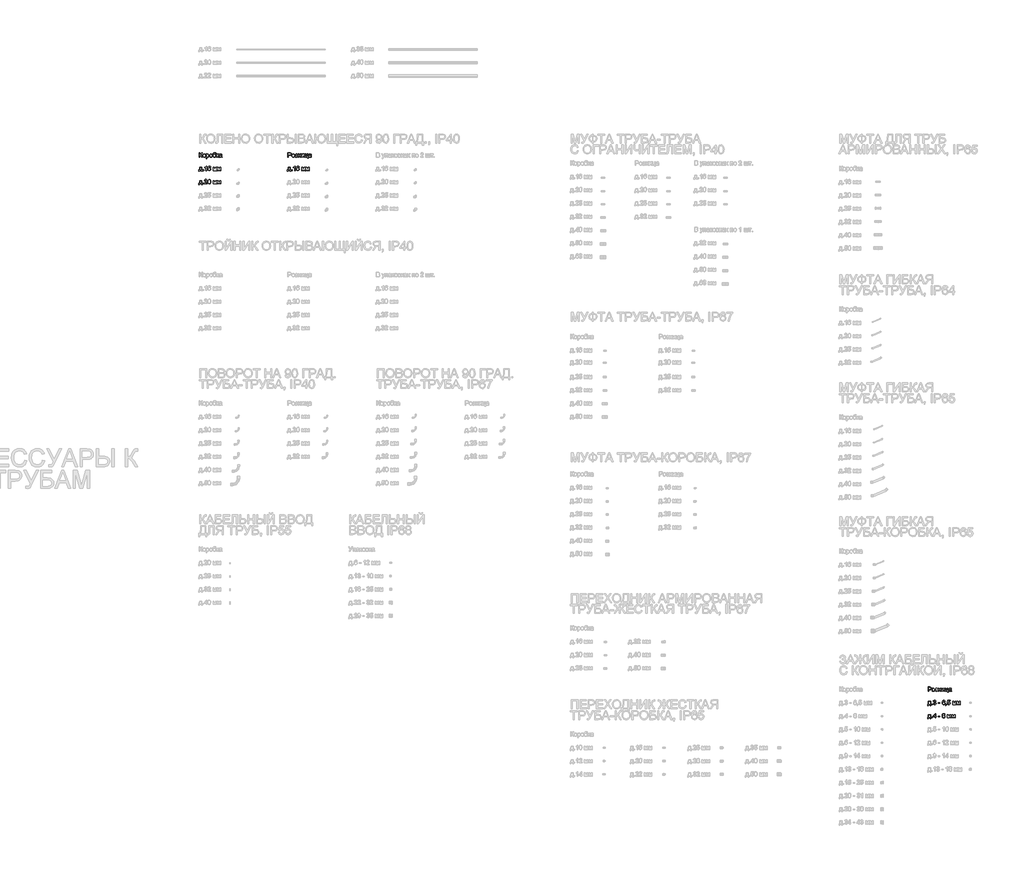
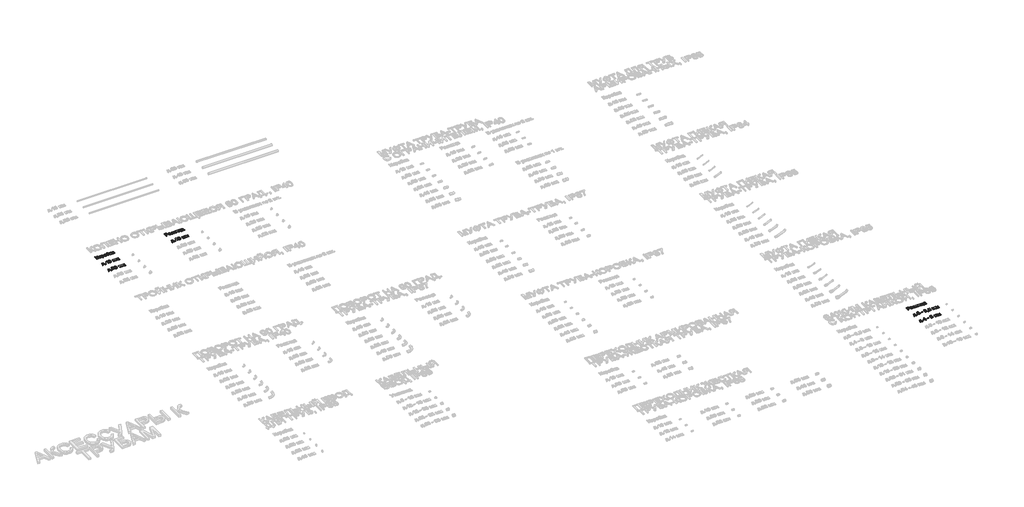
# One storey, part 80 of 98: 8 proxies.
"""IFC4 building model written with IfcOpenShell, lengths in millimetres."""

from ifc_helpers import new_model, si_unit, origin, origin_with_axes, place, context, project, spatial, polyline, outline, extrude, element, save

model = new_model("IFC4")

# Units and contexts
model_context = context("Model", 3, world=origin())
ifc_project = project(units=[si_unit("LENGTHUNIT", "METRE", prefix="MILLI")], contexts=[model_context])

# Site, building, storey
site = spatial("IfcSite", under=ifc_project)
building = spatial("IfcBuilding", under=site)
storey = spatial("IfcBuildingStorey", under=building, Name="Этаж 01", Elevation=0.0)

# Proxies
placement = place(None, origin())
element("IfcBuildingElementProxy", 1, Name="100", ObjectType="100", at=placement, inside=storey, context=model_context, shape_type="SweptSolid", body=[
    extrude(outline(polyline([(-26.9858135, -15385.7395637), (20.1030819, -15385.7395637), (20.1030819, -15446.9551277), (29.520861, -15446.9551277), (29.520861, -15479.9173545), (16.9638222, -15479.9173545), (16.9638222, -15459.5121665), (-34.8339627, -15459.5121665), (-34.8339627, -15479.9173545), (-47.3910015, -15479.9173545), (-47.3910015, -15446.9551277), (-39.5428522, -15446.9551277), (-29.8430303, -15423.0060098), (-26.9858135, -15385.7395637)]), holes=[polyline([(-15.9984045, -15398.2966025), (-18.9414605, -15426.905559), (-25.4161836, -15446.9551277), (7.5460431, -15446.9551277), (7.5460431, -15398.2966025), (-15.9984045, -15398.2966025)])]), origin_with_axes(), (0.0, 0.0, 1.0), 10.0),
    extrude(outline(polyline([(46.7867893, -15459.5121665), (46.7867893, -15446.9551277), (59.3438281, -15446.9551277), (59.3438281, -15459.5121665), (46.7867893, -15459.5121665)])), origin_with_axes(), (0.0, 0.0, 1.0), 10.0),
    extrude(outline(polyline([(126.8379114, -15459.5121665), (114.2808727, -15459.5121665), (114.2808727, -15381.2268779), (102.3860215, -15389.7004265), (89.1667951, -15396.0402596), (89.1667951, -15384.1699338), (107.5731576, -15372.4222355), (118.7445076, -15359.0558563), (126.8379114, -15359.0558563), (126.8379114, -15459.5121665)])), origin_with_axes(), (0.0, 0.0, 1.0), 10.0),
    extrude(outline(polyline([(221.0157022, -15385.7395637), (208.4586634, -15387.3091935), (203.700723, -15376.8368194), (191.1191587, -15371.6128951), (179.7883933, -15374.6540529), (171.2167428, -15386.0706575), (167.6482874, -15408.4501455), (178.7215355, -15398.4314925), (192.4435339, -15395.1573428), (204.0440795, -15397.3952916), (213.7806896, -15404.109138), (220.3841715, -15414.3669143), (222.5853321, -15427.2366527), (218.4405282, -15444.5638947), (207.0361864, -15456.8266279), (190.5795985, -15461.0817963), (176.3333682, -15458.2613677), (164.9872743, -15449.8000818), (157.5652551, -15434.8640728), (155.0912487, -15412.6194748), (157.8381009, -15387.6096305), (166.0786576, -15370.5092491), (177.3297153, -15361.9192045), (191.9039737, -15359.0558563), (202.9220394, -15360.8278213), (211.7450759, -15366.1437161), (217.9254935, -15374.5866079), (221.0157022, -15385.7395637)]), holes=[polyline([(167.6482874, -15427.040449), (170.5545552, -15437.9174933), (178.2800771, -15445.8146935), (189.5985798, -15448.5247575), (197.8851218, -15447.1206746), (204.3996988, -15442.9084257), (208.6211447, -15436.2865498), (210.0282933, -15427.6535857), (208.6395388, -15419.3670437), (204.4732752, -15413.0486705), (197.8483336, -15409.0479538), (189.083545, -15407.7143815), (173.8900186, -15413.0486705), (169.2087202, -15419.2137596), (167.6482874, -15427.040449)])]), origin_with_axes(), (0.0, 0.0, 1.0), 10.0),
    extrude(outline(polyline([(275.9527468, -15385.7395637), (297.5596827, -15385.7395637), (314.2124743, -15444.7968867), (332.1651157, -15385.7395637), (352.8646093, -15385.7395637), (352.8646093, -15459.5121665), (340.3075705, -15459.5121665), (340.3075705, -15400.111487), (322.2568273, -15459.5121665), (305.7757139, -15459.5121665), (288.5097856, -15397.2665329), (288.5097856, -15459.5121665), (275.9527468, -15459.5121665), (275.9527468, -15385.7395637)])), origin_with_axes(), (0.0, 0.0, 1.0), 10.0),
    extrude(outline(polyline([(371.7001674, -15385.7395637), (393.3071033, -15385.7395637), (409.9598949, -15444.7968867), (427.9125363, -15385.7395637), (448.6120299, -15385.7395637), (448.6120299, -15459.5121665), (436.0549911, -15459.5121665), (436.0549911, -15400.111487), (418.0042479, -15459.5121665), (401.5231345, -15459.5121665), (384.2572062, -15397.2665329), (384.2572062, -15459.5121665), (371.7001674, -15459.5121665), (371.7001674, -15385.7395637)])), origin_with_axes(), (0.0, 0.0, 1.0), 10.0),
])
element("IfcBuildingElementProxy", 2, Name="100", ObjectType="100", at=placement, inside=storey, context=model_context, shape_type="SweptSolid", body=[
    extrude(outline(polyline([(-36.4035925, -15059.0558563), (-23.8465538, -15059.0558563), (-23.8465538, -15103.005492), (-9.8057243, -15099.6822913), (-0.0078005, -15082.8700841), (6.9206438, -15068.8292546), (14.768793, -15061.8762849), (25.9891938, -15059.0558563), (34.2297505, -15059.2030091), (34.2297505, -15071.7600479), (31.4583728, -15071.6864715), (28.6869951, -15071.6128951), (18.8768086, -15074.6295274), (11.4210668, -15087.5544482), (2.5305853, -15103.2997976), (-6.1391671, -15108.4991965), (3.5545235, -15114.1768419), (13.113324, -15126.0103794), (34.2297505, -15159.5121665), (19.6616235, -15159.5121665), (1.807084, -15131.2097783), (-10.7622175, -15116.4331848), (-23.8465538, -15112.4232711), (-23.8465538, -15159.5121665), (-36.4035925, -15159.5121665), (-36.4035925, -15059.0558563)])), origin_with_axes(), (0.0, 0.0, 1.0), 10.0),
    extrude(outline(polyline([(40.5082699, -15122.6258651), (43.2244653, -15104.8387706), (51.3730515, -15092.3369141), (61.4407554, -15086.2116789), (73.4950221, -15084.1699338), (86.6866574, -15086.656203), (97.2234108, -15094.1150104), (104.1303953, -15105.957745), (106.4327234, -15121.5957955), (102.361496, -15143.9384953), (90.5034331, -15156.5813732), (73.4950221, -15161.0817963), (60.1439714, -15158.6047242), (49.6194807, -15151.1735079), (42.7860726, -15139.082453), (40.5082699, -15122.6258651)]), holes=[polyline([(53.0653087, -15122.6013396), (54.5184426, -15133.9658276), (58.8778442, -15142.0622972), (65.4384065, -15146.9091424), (73.4950221, -15148.5247575), (81.5148496, -15146.8999454), (88.0631492, -15142.025509), (92.4225508, -15133.8217405), (93.8756847, -15122.2089321), (92.4133537, -15111.175538), (88.026361, -15103.189433), (81.4688644, -15098.3425877), (73.4950221, -15096.7269726), (65.4384065, -15098.3364563), (58.8778442, -15103.1649075), (54.5184426, -15111.242983), (53.0653087, -15122.6013396)])]), origin_with_axes(), (0.0, 0.0, 1.0), 10.0),
    extrude(outline(polyline([(120.5593921, -15187.7655037), (120.5593921, -15085.7395637), (133.1164308, -15085.7395637), (133.1164308, -15098.0513478), (141.7984459, -15087.6402873), (153.5216188, -15084.1699338), (169.4386465, -15089.0259762), (179.8374442, -15102.7111864), (183.3445859, -15122.0617793), (179.3837231, -15142.4056537), (167.8812794, -15156.2625422), (152.0010399, -15161.0817963), (141.0749447, -15157.8566975), (133.1164308, -15149.7019799), (133.1164308, -15187.7655037), (120.5593921, -15187.7655037)]), holes=[polyline([(133.1164308, -15123.2144763), (134.4745285, -15134.4716653), (138.5488216, -15142.34434), (144.5606266, -15146.9796532), (151.7312598, -15148.5247575), (159.018389, -15146.9244709), (165.1834781, -15142.1236108), (169.3865299, -15133.9627619), (170.7875471, -15122.2825085), (169.4202524, -15111.0866332), (165.3183681, -15103.1035939), (159.3157603, -15098.3211279), (152.2462946, -15096.7269726), (145.1492378, -15098.4222955), (138.9167036, -15103.5082641), (134.566499, -15111.8254628), (133.1164308, -15123.2144763)])]), origin_with_axes(), (0.0, 0.0, 1.0), 10.0),
    extrude(outline(polyline([(194.3319948, -15122.6258651), (197.0481902, -15104.8387706), (205.1967764, -15092.3369141), (215.2644804, -15086.2116789), (227.3187471, -15084.1699338), (240.5103823, -15086.656203), (251.0471358, -15094.1150104), (257.9541202, -15105.957745), (260.2564484, -15121.5957955), (256.185221, -15143.9384953), (244.327158, -15156.5813732), (227.3187471, -15161.0817963), (213.9676963, -15158.6047242), (203.4432056, -15151.1735079), (196.6097975, -15139.082453), (194.3319948, -15122.6258651)]), holes=[polyline([(206.8890336, -15122.6013396), (208.3421675, -15133.9658276), (212.7015691, -15142.0622972), (219.2621314, -15146.9091424), (227.3187471, -15148.5247575), (235.3385746, -15146.8999454), (241.8868741, -15142.025509), (246.2462757, -15133.8217405), (247.6994096, -15122.2089321), (246.2370787, -15111.175538), (241.8500859, -15103.189433), (235.2925893, -15098.3425877), (227.3187471, -15096.7269726), (219.2621314, -15098.3364563), (212.7015691, -15103.1649075), (208.3421675, -15111.242983), (206.8890336, -15122.6013396)])]), origin_with_axes(), (0.0, 0.0, 1.0), 10.0),
    extrude(outline(polyline([(326.1809019, -15057.4862265), (337.1683108, -15057.4862265), (333.9309493, -15067.2841503), (327.5298025, -15070.8280802), (312.1523351, -15071.6128951), (291.4405788, -15074.5069001), (283.4943277, -15083.7775264), (280.8087892, -15100.1850634), (291.6858335, -15088.1675849), (305.7021375, -15084.1699338), (318.7680797, -15086.7113853), (329.3692125, -15094.3357396), (336.3957586, -15106.2949702), (338.7379407, -15121.8410502), (334.0903648, -15143.447986), (323.0661677, -15156.4832714), (305.7021375, -15161.0817963), (294.3683064, -15159.6010713), (285.873298, -15155.1588962), (275.0207791, -15140.002158), (271.2438573, -15107.8370089), (273.6258932, -15083.7438039), (280.772001, -15069.0499838), (292.8599902, -15061.5543882), (310.0676705, -15059.0558563), (324.0471863, -15058.7738134), (326.1809019, -15057.4862265)]), holes=[polyline([(326.1809019, -15121.4486427), (324.8197385, -15111.5679454), (320.7362484, -15103.6554169), (314.1756861, -15098.4590837), (305.3833064, -15096.7269726), (296.2169134, -15098.5571855), (289.4172278, -15104.0478243), (285.204979, -15112.598015), (283.8008961, -15123.6068837), (285.3521318, -15134.2785273), (290.005839, -15142.1113481), (296.9342833, -15146.9214052), (305.30973, -15148.5247575), (313.7280964, -15146.6700191), (320.3928918, -15141.105804), (324.7338994, -15132.4820369), (326.1809019, -15121.4486427)])]), origin_with_axes(), (0.0, 0.0, 1.0), 10.0),
    extrude(outline(polyline([(354.4342391, -15085.7395637), (366.9912779, -15085.7395637), (366.9912779, -15117.1321606), (375.4035129, -15114.8758177), (382.2951689, -15101.7301677), (388.0218653, -15090.3871396), (393.0741114, -15086.6960569), (402.2588985, -15085.7395637), (404.6623942, -15085.7395637), (404.6623942, -15098.3701789), (401.2778798, -15098.2966025), (395.1465133, -15099.6209776), (390.8300312, -15107.8860598), (385.7655224, -15116.8255923), (378.6653999, -15121.203388), (386.5871255, -15126.0900872), (394.3616983, -15136.3846517), (407.8016539, -15159.5121665), (393.5278325, -15159.5121665), (380.3576571, -15136.875161), (373.7357811, -15127.2979664), (366.9912779, -15124.9803098), (366.9912779, -15159.5121665), (354.4342391, -15159.5121665), (354.4342391, -15085.7395637)])), origin_with_axes(), (0.0, 0.0, 1.0), 10.0),
    extrude(outline(polyline([(462.7386985, -15150.0943874), (450.5618045, -15158.6047242), (437.1095862, -15161.0817963), (426.6157523, -15159.5918742), (418.874902, -15155.122108), (414.1016331, -15148.3346852), (412.5105434, -15139.8917934), (414.9140391, -15129.9589795), (421.2293467, -15122.7484924), (430.0217264, -15118.6282141), (440.886508, -15116.7397532), (462.6651221, -15112.4232711), (462.7386985, -15109.6273679), (459.2806078, -15100.3567416), (445.3991938, -15096.7269726), (432.6950022, -15099.142731), (426.637212, -15107.7143815), (414.0801733, -15106.1447517), (419.5125641, -15093.8820185), (430.4509221, -15086.6960569), (447.0178746, -15084.1699338), (462.2359264, -15086.4017513), (470.8321024, -15092.0058203), (474.6826006, -15100.5284199), (475.2957373, -15111.5158288), (475.2957373, -15127.1385509), (475.9333994, -15148.9539532), (478.434997, -15159.5121665), (465.8779582, -15159.5121665), (462.7386985, -15150.0943874)]), holes=[polyline([(462.7386985, -15124.9803098), (442.4806633, -15128.8308081), (431.6771954, -15130.8664218), (426.7843648, -15134.1773597), (425.0675822, -15139.0088766), (428.8077158, -15145.8024308), (439.782862, -15148.5247575), (452.4870536, -15145.5203879), (460.6785593, -15138.2485871), (462.6651221, -15128.5365025), (462.7386985, -15124.9803098)])]), origin_with_axes(), (0.0, 0.0, 1.0), 10.0),
])
element("IfcBuildingElementProxy", 3, Name="100", ObjectType="100", at=placement, inside=storey, context=model_context, shape_type="SweptSolid", body=[
    extrude(outline(polyline([(-26.9858135, -15685.7395637), (20.1030819, -15685.7395637), (20.1030819, -15746.9551277), (29.520861, -15746.9551277), (29.520861, -15779.9173545), (16.9638222, -15779.9173545), (16.9638222, -15759.5121665), (-34.8339627, -15759.5121665), (-34.8339627, -15779.9173545), (-47.3910015, -15779.9173545), (-47.3910015, -15746.9551277), (-39.5428522, -15746.9551277), (-29.8430303, -15723.0060098), (-26.9858135, -15685.7395637)]), holes=[polyline([(-15.9984045, -15698.2966025), (-18.9414605, -15726.905559), (-25.4161836, -15746.9551277), (7.5460431, -15746.9551277), (7.5460431, -15698.2966025), (-15.9984045, -15698.2966025)])]), origin_with_axes(), (0.0, 0.0, 1.0), 10.0),
    extrude(outline(polyline([(46.7867893, -15759.5121665), (46.7867893, -15746.9551277), (59.3438281, -15746.9551277), (59.3438281, -15759.5121665), (46.7867893, -15759.5121665)])), origin_with_axes(), (0.0, 0.0, 1.0), 10.0),
    extrude(outline(polyline([(144.1038398, -15746.9551277), (144.1038398, -15759.5121665), (78.1793862, -15759.5121665), (79.5282869, -15750.8546768), (87.1557069, -15737.5250859), (102.8765308, -15722.9692216), (124.5570431, -15702.0489988), (129.9771711, -15687.8242283), (124.8636114, -15676.3095219), (111.509495, -15671.6128951), (97.5912928, -15676.1991573), (92.3060548, -15688.8788234), (79.7490161, -15687.3091935), (82.7932396, -15675.1629563), (89.3752616, -15666.2908689), (99.1517256, -15660.8646095), (111.7792751, -15659.0558563), (124.4987951, -15661.0669445), (134.256865, -15667.1002093), (140.4648737, -15676.1133182), (142.5342099, -15687.0639389), (140.3023925, -15698.9710528), (132.8834389, -15711.2828369), (114.8940093, -15728.4874515), (100.4485097, -15740.5662437), (94.7831269, -15746.9551277), (144.1038398, -15746.9551277)])), origin_with_axes(), (0.0, 0.0, 1.0), 10.0),
    extrude(outline(polyline([(156.6608785, -15710.0933518), (160.3519612, -15681.1900897), (171.3148447, -15664.5250353), (189.6231053, -15659.0558563), (204.2893342, -15662.2932179), (214.4183518, -15671.6251578), (220.3044637, -15686.4875904), (222.5853321, -15710.0933518), (218.9310376, -15738.8739865), (208.0049423, -15755.5758291), (199.7735827, -15759.7053045), (189.6231053, -15761.0817963), (176.5755572, -15758.6905633), (166.6672688, -15751.5168644), (159.1624761, -15734.5268476), (156.6608785, -15710.0933518)]), holes=[polyline([(169.2179173, -15710.0688263), (170.6894453, -15729.8210238), (175.1040292, -15741.2529568), (181.6768542, -15746.7068073), (189.6231053, -15748.5247575), (197.5693564, -15746.700676), (204.1421814, -15741.2284313), (208.5567653, -15729.7903669), (210.0282933, -15710.0688263), (208.6058162, -15690.7611529), (204.3383851, -15679.2403151), (197.7778228, -15673.5197501), (189.4759525, -15671.6128951), (181.6155405, -15673.2928895), (175.3002329, -15678.3328729), (170.7384962, -15690.5710806), (169.2179173, -15710.0688263)])]), origin_with_axes(), (0.0, 0.0, 1.0), 10.0),
    extrude(outline(polyline([(275.9527468, -15685.7395637), (297.5596827, -15685.7395637), (314.2124743, -15744.7968867), (332.1651157, -15685.7395637), (352.8646093, -15685.7395637), (352.8646093, -15759.5121665), (340.3075705, -15759.5121665), (340.3075705, -15700.111487), (322.2568273, -15759.5121665), (305.7757139, -15759.5121665), (288.5097856, -15697.2665329), (288.5097856, -15759.5121665), (275.9527468, -15759.5121665), (275.9527468, -15685.7395637)])), origin_with_axes(), (0.0, 0.0, 1.0), 10.0),
    extrude(outline(polyline([(371.7001674, -15685.7395637), (393.3071033, -15685.7395637), (409.9598949, -15744.7968867), (427.9125363, -15685.7395637), (448.6120299, -15685.7395637), (448.6120299, -15759.5121665), (436.0549911, -15759.5121665), (436.0549911, -15700.111487), (418.0042479, -15759.5121665), (401.5231345, -15759.5121665), (384.2572062, -15697.2665329), (384.2572062, -15759.5121665), (371.7001674, -15759.5121665), (371.7001674, -15685.7395637)])), origin_with_axes(), (0.0, 0.0, 1.0), 10.0),
])
element("IfcBuildingElementProxy", 4, Name="100", ObjectType="100", at=placement, inside=storey, context=model_context, shape_type="SweptSolid", body=[
    extrude(outline(polyline([(1973.0141865, -15385.7395637), (2020.1030819, -15385.7395637), (2020.1030819, -15446.9551277), (2029.520861, -15446.9551277), (2029.520861, -15479.9173545), (2016.9638222, -15479.9173545), (2016.9638222, -15459.5121665), (1965.1660373, -15459.5121665), (1965.1660373, -15479.9173545), (1952.6089985, -15479.9173545), (1952.6089985, -15446.9551277), (1960.4571478, -15446.9551277), (1970.1569697, -15423.0060098), (1973.0141865, -15385.7395637)]), holes=[polyline([(1984.0015955, -15398.2966025), (1981.0585395, -15426.905559), (1974.5838164, -15446.9551277), (2007.5460431, -15446.9551277), (2007.5460431, -15398.2966025), (1984.0015955, -15398.2966025)])]), origin_with_axes(), (0.0, 0.0, 1.0), 10.0),
    extrude(outline(polyline([(2046.7867893, -15459.5121665), (2046.7867893, -15446.9551277), (2059.3438281, -15446.9551277), (2059.3438281, -15459.5121665), (2046.7867893, -15459.5121665)])), origin_with_axes(), (0.0, 0.0, 1.0), 10.0),
    extrude(outline(polyline([(2126.8379114, -15459.5121665), (2114.2808727, -15459.5121665), (2114.2808727, -15381.2268779), (2102.3860215, -15389.7004265), (2089.1667951, -15396.0402596), (2089.1667951, -15384.1699338), (2107.5731576, -15372.4222355), (2118.7445076, -15359.0558563), (2126.8379114, -15359.0558563), (2126.8379114, -15459.5121665)])), origin_with_axes(), (0.0, 0.0, 1.0), 10.0),
    extrude(outline(polyline([(2221.0157022, -15385.7395637), (2208.4586634, -15387.3091935), (2203.700723, -15376.8368194), (2191.1191587, -15371.6128951), (2179.7883933, -15374.6540529), (2171.2167428, -15386.0706575), (2167.6482874, -15408.4501455), (2178.7215355, -15398.4314925), (2192.4435339, -15395.1573428), (2204.0440795, -15397.3952916), (2213.7806896, -15404.109138), (2220.3841715, -15414.3669143), (2222.5853321, -15427.2366527), (2218.4405282, -15444.5638947), (2207.0361864, -15456.8266279), (2190.5795985, -15461.0817963), (2176.3333682, -15458.2613677), (2164.9872743, -15449.8000818), (2157.5652551, -15434.8640728), (2155.0912487, -15412.6194748), (2157.8381009, -15387.6096305), (2166.0786576, -15370.5092491), (2177.3297153, -15361.9192045), (2191.9039737, -15359.0558563), (2202.9220394, -15360.8278213), (2211.7450759, -15366.1437161), (2217.9254935, -15374.5866079), (2221.0157022, -15385.7395637)]), holes=[polyline([(2167.6482874, -15427.040449), (2170.5545552, -15437.9174933), (2178.2800771, -15445.8146935), (2189.5985798, -15448.5247575), (2197.8851218, -15447.1206746), (2204.3996988, -15442.9084257), (2208.6211447, -15436.2865498), (2210.0282933, -15427.6535857), (2208.6395388, -15419.3670437), (2204.4732752, -15413.0486705), (2197.8483336, -15409.0479538), (2189.083545, -15407.7143815), (2173.8900186, -15413.0486705), (2169.2087202, -15419.2137596), (2167.6482874, -15427.040449)])]), origin_with_axes(), (0.0, 0.0, 1.0), 10.0),
    extrude(outline(polyline([(2275.9527468, -15385.7395637), (2297.5596827, -15385.7395637), (2314.2124743, -15444.7968867), (2332.1651157, -15385.7395637), (2352.8646093, -15385.7395637), (2352.8646093, -15459.5121665), (2340.3075705, -15459.5121665), (2340.3075705, -15400.111487), (2322.2568273, -15459.5121665), (2305.7757139, -15459.5121665), (2288.5097856, -15397.2665329), (2288.5097856, -15459.5121665), (2275.9527468, -15459.5121665), (2275.9527468, -15385.7395637)])), origin_with_axes(), (0.0, 0.0, 1.0), 10.0),
    extrude(outline(polyline([(2371.7001674, -15385.7395637), (2393.3071033, -15385.7395637), (2409.9598949, -15444.7968867), (2427.9125363, -15385.7395637), (2448.6120299, -15385.7395637), (2448.6120299, -15459.5121665), (2436.0549911, -15459.5121665), (2436.0549911, -15400.111487), (2418.0042479, -15459.5121665), (2401.5231345, -15459.5121665), (2384.2572062, -15397.2665329), (2384.2572062, -15459.5121665), (2371.7001674, -15459.5121665), (2371.7001674, -15385.7395637)])), origin_with_axes(), (0.0, 0.0, 1.0), 10.0),
])
element("IfcBuildingElementProxy", 5, Name="100", ObjectType="100", at=placement, inside=storey, context=model_context, shape_type="SweptSolid", body=[
    extrude(outline(polyline([(1963.5964075, -15159.5121665), (1963.5964075, -15059.0558563), (2000.8260654, -15059.0558563), (2015.8356508, -15060.0123495), (2028.0370703, -15064.7089763), (2035.9465332, -15074.421061), (2038.9386401, -15088.1185339), (2036.9183548, -15099.9582028), (2030.8574989, -15109.8235716), (2019.5236678, -15116.4822358), (2001.6844567, -15118.7017905), (1976.1534462, -15118.7017905), (1976.1534462, -15159.5121665), (1963.5964075, -15159.5121665)]), holes=[polyline([(1976.1534462, -15106.1447517), (2002.4202207, -15106.1447517), (2020.9124223, -15101.533964), (2025.0143065, -15095.9850773), (2026.3816013, -15088.5599923), (2023.1565025, -15078.1611946), (2014.6829539, -15072.4712864), (2002.1259151, -15071.6128951), (1976.1534462, -15071.6128951), (1976.1534462, -15106.1447517)])]), origin_with_axes(), (0.0, 0.0, 1.0), 10.0),
    extrude(outline(polyline([(2051.4956788, -15122.6258651), (2054.2118742, -15104.8387706), (2062.3604604, -15092.3369141), (2072.4281644, -15086.2116789), (2084.4824311, -15084.1699338), (2097.6740663, -15086.656203), (2108.2108198, -15094.1150104), (2115.1178042, -15105.957745), (2117.4201324, -15121.5957955), (2113.348905, -15143.9384953), (2101.490842, -15156.5813732), (2084.4824311, -15161.0817963), (2071.1313803, -15158.6047242), (2060.6068896, -15151.1735079), (2053.7734815, -15139.082453), (2051.4956788, -15122.6258651)]), holes=[polyline([(2064.0527176, -15122.6013396), (2065.5058515, -15133.9658276), (2069.8652531, -15142.0622972), (2076.4258154, -15146.9091424), (2084.4824311, -15148.5247575), (2092.5022586, -15146.8999454), (2099.0505581, -15142.025509), (2103.4099597, -15133.8217405), (2104.8630936, -15122.2089321), (2103.4007627, -15111.175538), (2099.0137699, -15103.189433), (2092.4562733, -15098.3425877), (2084.4824311, -15096.7269726), (2076.4258154, -15098.3364563), (2069.8652531, -15103.1649075), (2065.5058515, -15111.242983), (2064.0527176, -15122.6013396)])]), origin_with_axes(), (0.0, 0.0, 1.0), 10.0),
    extrude(outline(polyline([(2148.8127293, -15126.5499397), (2148.8127293, -15113.9929009), (2158.7210177, -15113.5023916), (2163.7242128, -15110.8904294), (2166.0786576, -15105.4335132), (2162.9271352, -15099.0936801), (2154.7969431, -15096.7269726), (2146.3969709, -15099.0814174), (2140.9645801, -15106.1447517), (2126.8379114, -15104.5751218), (2136.280216, -15089.2712308), (2153.5216188, -15084.1699338), (2164.0185184, -15085.7242353), (2171.9647695, -15090.3871396), (2176.9679647, -15097.2082849), (2178.6356964, -15105.2373094), (2176.2628575, -15113.0364077), (2169.1443409, -15119.0696725), (2177.4462112, -15126.8932962), (2180.2053262, -15138.1504853), (2178.4548211, -15147.3935204), (2173.2033056, -15154.7174378), (2164.806399, -15159.4907067), (2153.6197207, -15161.0817963), (2142.678297, -15159.6102683), (2134.3059159, -15155.1956844), (2128.5025775, -15147.8380445), (2125.2682816, -15137.5373486), (2139.3949502, -15135.9677188), (2145.0603329, -15145.238345), (2154.8214685, -15148.5247575), (2163.993993, -15145.3732351), (2167.6482874, -15137.3166194), (2165.3796818, -15130.719269), (2160.5481649, -15127.1876018), (2151.2652759, -15126.4763633), (2148.8127293, -15126.5499397)])), origin_with_axes(), (0.0, 0.0, 1.0), 10.0),
    extrude(outline(polyline([(2195.9016247, -15085.7395637), (2208.4586634, -15085.7395637), (2208.4586634, -15113.9929009), (2241.4208902, -15113.9929009), (2241.4208902, -15085.7395637), (2253.977929, -15085.7395637), (2253.977929, -15159.5121665), (2241.4208902, -15159.5121665), (2241.4208902, -15126.5499397), (2208.4586634, -15126.5499397), (2208.4586634, -15159.5121665), (2195.9016247, -15159.5121665), (2195.9016247, -15085.7395637)])), origin_with_axes(), (0.0, 0.0, 1.0), 10.0),
    extrude(outline(polyline([(2272.8134871, -15085.7395637), (2285.3705259, -15085.7395637), (2285.3705259, -15142.0009835), (2316.2235626, -15085.7395637), (2332.4594213, -15085.7395637), (2332.4594213, -15159.5121665), (2319.9023825, -15159.5121665), (2319.9023825, -15103.5941032), (2289.2455496, -15159.5121665), (2272.8134871, -15159.5121665), (2272.8134871, -15085.7395637)])), origin_with_axes(), (0.0, 0.0, 1.0), 10.0),
    extrude(outline(polyline([(2351.2949794, -15085.7395637), (2363.8520182, -15085.7395637), (2363.8520182, -15146.9551277), (2399.9535047, -15146.9551277), (2399.9535047, -15085.7395637), (2412.5105434, -15085.7395637), (2412.5105434, -15146.9551277), (2420.3586927, -15146.9551277), (2420.3586927, -15179.9173545), (2407.8016539, -15179.9173545), (2407.8016539, -15159.5121665), (2351.2949794, -15159.5121665), (2351.2949794, -15085.7395637)])), origin_with_axes(), (0.0, 0.0, 1.0), 10.0),
    extrude(outline(polyline([(2478.434997, -15150.0943874), (2466.2581029, -15158.6047242), (2452.8058846, -15161.0817963), (2442.3120507, -15159.5918742), (2434.5712004, -15155.122108), (2429.7979315, -15148.3346852), (2428.2068419, -15139.8917934), (2430.6103376, -15129.9589795), (2436.9256452, -15122.7484924), (2445.7180249, -15118.6282141), (2456.5828065, -15116.7397532), (2478.3614206, -15112.4232711), (2478.434997, -15109.6273679), (2474.9769062, -15100.3567416), (2461.0954923, -15096.7269726), (2448.3913007, -15099.142731), (2442.3335105, -15107.7143815), (2429.7764717, -15106.1447517), (2435.2088625, -15093.8820185), (2446.1472205, -15086.6960569), (2462.714173, -15084.1699338), (2477.9322249, -15086.4017513), (2486.5284009, -15092.0058203), (2490.3788991, -15100.5284199), (2490.9920357, -15111.5158288), (2490.9920357, -15127.1385509), (2491.6296979, -15148.9539532), (2494.1312954, -15159.5121665), (2481.5742567, -15159.5121665), (2478.434997, -15150.0943874)]), holes=[polyline([(2478.434997, -15124.9803098), (2458.1769618, -15128.8308081), (2447.3734938, -15130.8664218), (2442.4806633, -15134.1773597), (2440.7638807, -15139.0088766), (2444.5040143, -15145.8024308), (2455.4791605, -15148.5247575), (2468.183352, -15145.5203879), (2476.3748578, -15138.2485871), (2478.3614206, -15128.5365025), (2478.434997, -15124.9803098)])]), origin_with_axes(), (0.0, 0.0, 1.0), 10.0),
])
element("IfcBuildingElementProxy", 6, Name="100", ObjectType="100", at=placement, inside=storey, context=model_context, shape_type="SweptSolid", body=[
    extrude(outline(polyline([(16422.316053, -27223.4618021), (16422.316053, -27123.005492), (16459.545711, -27123.005492), (16474.5552964, -27123.9619852), (16486.7567159, -27128.658612), (16494.6661788, -27138.3706967), (16497.6582857, -27152.0681696), (16495.6380004, -27163.9078385), (16489.5771445, -27173.7732073), (16478.2433134, -27180.4318714), (16460.4041023, -27182.6514262), (16434.8730918, -27182.6514262), (16434.8730918, -27223.4618021), (16422.316053, -27223.4618021)]), holes=[polyline([(16434.8730918, -27170.0943874), (16461.1398663, -27170.0943874), (16479.6320679, -27165.4835997), (16483.7339521, -27159.9347129), (16485.1012469, -27152.509628), (16481.8761481, -27142.1108303), (16473.4025994, -27136.4209221), (16460.8455607, -27135.5625308), (16434.8730918, -27135.5625308), (16434.8730918, -27170.0943874)])]), origin_with_axes(), (0.0, 0.0, 1.0), 10.0),
    extrude(outline(polyline([(16510.2153244, -27186.5755008), (16512.9315198, -27168.7884063), (16521.080106, -27156.2865498), (16531.14781, -27150.1613146), (16543.2020767, -27148.1195695), (16556.3937119, -27150.6058387), (16566.9304654, -27158.0646461), (16573.8374498, -27169.9073807), (16576.139778, -27185.5454312), (16572.0685505, -27207.888131), (16560.2104876, -27220.5310089), (16543.2020767, -27225.031432), (16529.8510259, -27222.5543599), (16519.3265352, -27215.1231436), (16512.4931271, -27203.0320887), (16510.2153244, -27186.5755008)]), holes=[polyline([(16522.7723632, -27186.5509753), (16524.2254971, -27197.9154633), (16528.5848987, -27206.0119328), (16535.145461, -27210.8587781), (16543.2020767, -27212.4743932), (16551.2219042, -27210.8495811), (16557.7702037, -27205.9751446), (16562.1296053, -27197.7713762), (16563.5827392, -27186.1585678), (16562.1204083, -27175.1251737), (16557.7334155, -27167.1390687), (16551.1759189, -27162.2922234), (16543.2020767, -27160.6766083), (16535.145461, -27162.286092), (16528.5848987, -27167.1145432), (16524.2254971, -27175.1926187), (16522.7723632, -27186.5509753)])]), origin_with_axes(), (0.0, 0.0, 1.0), 10.0),
    extrude(outline(polyline([(16607.5323749, -27190.4995754), (16607.5323749, -27177.9425366), (16617.4406633, -27177.4520273), (16622.4438584, -27174.8400651), (16624.7983032, -27169.3831489), (16621.6467808, -27163.0433158), (16613.5165887, -27160.6766083), (16605.1166164, -27163.0310531), (16599.6842257, -27170.0943874), (16585.557557, -27168.5247575), (16594.9998616, -27153.2208665), (16612.2412644, -27148.1195695), (16622.738164, -27149.673871), (16630.6844151, -27154.3367753), (16635.6876102, -27161.1579206), (16637.355342, -27169.1869451), (16634.9825031, -27176.9860434), (16627.8639865, -27183.0193081), (16636.1658568, -27190.8429319), (16638.9249718, -27202.100121), (16637.1744666, -27211.3431561), (16631.9229512, -27218.6670735), (16623.5260446, -27223.4403424), (16612.3393663, -27225.031432), (16601.3979426, -27223.559904), (16593.0255615, -27219.1453201), (16587.2222231, -27211.7876802), (16583.9879272, -27201.4869843), (16598.1145958, -27199.9173545), (16603.7799785, -27209.1879807), (16613.5411141, -27212.4743932), (16622.7136386, -27209.3228708), (16626.367933, -27201.2662551), (16624.0993274, -27194.6689047), (16619.2678105, -27191.1372375), (16609.9849215, -27190.425999), (16607.5323749, -27190.4995754)])), origin_with_axes(), (0.0, 0.0, 1.0), 10.0),
    extrude(outline(polyline([(16654.6212703, -27149.6891994), (16667.178309, -27149.6891994), (16667.178309, -27177.9425366), (16700.1405358, -27177.9425366), (16700.1405358, -27149.6891994), (16712.6975746, -27149.6891994), (16712.6975746, -27223.4618021), (16700.1405358, -27223.4618021), (16700.1405358, -27190.4995754), (16667.178309, -27190.4995754), (16667.178309, -27223.4618021), (16654.6212703, -27223.4618021), (16654.6212703, -27149.6891994)])), origin_with_axes(), (0.0, 0.0, 1.0), 10.0),
    extrude(outline(polyline([(16731.5331327, -27149.6891994), (16744.0901715, -27149.6891994), (16744.0901715, -27205.9506192), (16774.9432082, -27149.6891994), (16791.1790669, -27149.6891994), (16791.1790669, -27223.4618021), (16778.6220281, -27223.4618021), (16778.6220281, -27167.5437389), (16747.9651952, -27223.4618021), (16731.5331327, -27223.4618021), (16731.5331327, -27149.6891994)])), origin_with_axes(), (0.0, 0.0, 1.0), 10.0),
    extrude(outline(polyline([(16810.014625, -27149.6891994), (16822.5716638, -27149.6891994), (16822.5716638, -27210.9047634), (16858.6731503, -27210.9047634), (16858.6731503, -27149.6891994), (16871.230189, -27149.6891994), (16871.230189, -27210.9047634), (16879.0783383, -27210.9047634), (16879.0783383, -27243.8669901), (16866.5212995, -27243.8669901), (16866.5212995, -27223.4618021), (16810.014625, -27223.4618021), (16810.014625, -27149.6891994)])), origin_with_axes(), (0.0, 0.0, 1.0), 10.0),
    extrude(outline(polyline([(16937.1546426, -27214.0440231), (16924.9777485, -27222.5543599), (16911.5255302, -27225.031432), (16901.0316963, -27223.5415099), (16893.290846, -27219.0717437), (16888.5175771, -27212.2843209), (16886.9264875, -27203.8414291), (16889.3299832, -27193.9086152), (16895.6452908, -27186.6981281), (16904.4376705, -27182.5778498), (16915.302452, -27180.6893888), (16937.0810662, -27176.3729068), (16937.1546426, -27173.5770036), (16933.6965518, -27164.3063773), (16919.8151379, -27160.6766083), (16907.1109463, -27163.0923667), (16901.0531561, -27171.6640172), (16888.4961173, -27170.0943874), (16893.9285081, -27157.8316542), (16904.8668661, -27150.6456926), (16921.4338186, -27148.1195695), (16936.6518705, -27150.351387), (16945.2480465, -27155.955456), (16949.0985447, -27164.4780556), (16949.7116813, -27175.4654645), (16949.7116813, -27191.0881866), (16950.3493435, -27212.9035889), (16952.850941, -27223.4618021), (16940.2939023, -27223.4618021), (16937.1546426, -27214.0440231)]), holes=[polyline([(16937.1546426, -27188.9299455), (16916.8966074, -27192.7804438), (16906.0931394, -27194.8160575), (16901.2003089, -27198.1269954), (16899.4835263, -27202.9585123), (16903.2236599, -27209.7520665), (16914.1988061, -27212.4743932), (16926.9029976, -27209.4700236), (16935.0945034, -27202.1982228), (16937.0810662, -27192.4861382), (16937.1546426, -27188.9299455)])]), origin_with_axes(), (0.0, 0.0, 1.0), 10.0),
])
element("IfcBuildingElementProxy", 7, Name="100", ObjectType="100", at=placement, inside=storey, context=model_context, shape_type="SweptSolid", body=[
    extrude(outline(polyline([(16431.7338321, -27449.6891994), (16478.8227275, -27449.6891994), (16478.8227275, -27510.9047634), (16488.2405066, -27510.9047634), (16488.2405066, -27543.8669901), (16475.6834678, -27543.8669901), (16475.6834678, -27523.4618021), (16423.8856829, -27523.4618021), (16423.8856829, -27543.8669901), (16411.3286441, -27543.8669901), (16411.3286441, -27510.9047634), (16419.1767934, -27510.9047634), (16428.8766153, -27486.9556455), (16431.7338321, -27449.6891994)]), holes=[polyline([(16442.721241, -27462.2462382), (16439.7781851, -27490.8551946), (16433.303462, -27510.9047634), (16466.2656887, -27510.9047634), (16466.2656887, -27462.2462382), (16442.721241, -27462.2462382)])]), origin_with_axes(), (0.0, 0.0, 1.0), 10.0),
    extrude(outline(polyline([(16505.5064349, -27523.4618021), (16505.5064349, -27510.9047634), (16518.0634737, -27510.9047634), (16518.0634737, -27523.4618021), (16505.5064349, -27523.4618021)])), origin_with_axes(), (0.0, 0.0, 1.0), 10.0),
    extrude(outline(polyline([(16538.4686617, -27496.7780948), (16551.0257004, -27495.2084649), (16557.9541447, -27508.4276913), (16570.9158536, -27512.4743932), (16579.5242923, -27511.082573), (16586.1706937, -27506.9071124), (16591.8360764, -27493.1238003), (16586.2197446, -27480.1375659), (16571.9459232, -27474.9994807), (16563.1412808, -27476.3729068), (16564.5392324, -27463.815868), (16566.5503206, -27463.9630208), (16580.7996166, -27460.3577772), (16585.5452943, -27455.7837778), (16587.1271869, -27449.2722665), (16582.5409247, -27439.4498172), (16570.7196499, -27435.5625308), (16558.7512223, -27439.4866054), (16552.5953303, -27451.2588292), (16540.0382915, -27449.6891994), (16543.7355056, -27438.4136162), (16550.3144619, -27429.9952499), (16559.3153081, -27424.7529315), (16570.2781915, -27423.005492), (16585.422667, -27426.45132), (16596.0176684, -27435.8690991), (16599.6842257, -27448.5365025), (16596.2016094, -27460.1125226), (16585.9009136, -27468.4266557), (16599.5861238, -27477.0105689), (16604.3931152, -27493.3445295), (16601.9896195, -27505.5827372), (16594.7791324, -27515.8098566), (16583.8959567, -27522.7260382), (16570.4743952, -27525.031432), (16558.3342894, -27523.0632633), (16548.4505265, -27517.1587573), (16541.5772645, -27508.1272543), (16538.4686617, -27496.7780948)])), origin_with_axes(), (0.0, 0.0, 1.0), 10.0),
    extrude(outline(polyline([(16651.4820106, -27493.6388351), (16651.4820106, -27481.0817963), (16690.7227567, -27481.0817963), (16690.7227567, -27493.6388351), (16651.4820106, -27493.6388351)])), origin_with_axes(), (0.0, 0.0, 1.0), 10.0),
    extrude(outline(polyline([(16805.3057355, -27449.6891994), (16792.7486967, -27451.2588292), (16787.9907563, -27440.7864551), (16775.409192, -27435.5625308), (16764.0784266, -27438.6036886), (16755.5067761, -27450.0202932), (16751.9383207, -27472.3997812), (16763.0115688, -27462.3811282), (16776.7335672, -27459.1069785), (16788.3341128, -27461.3449273), (16798.0707229, -27468.0587737), (16804.6742047, -27478.31655), (16806.8753653, -27491.1862884), (16802.7305615, -27508.5135304), (16791.3262197, -27520.7762636), (16774.8696318, -27525.031432), (16760.6234015, -27522.2110034), (16749.2773076, -27513.7497175), (16741.8552884, -27498.8137085), (16739.381282, -27476.5691105), (16742.1281342, -27451.5592662), (16750.3686909, -27434.4588848), (16761.6197486, -27425.8688402), (16776.1940069, -27423.005492), (16787.2120727, -27424.7774569), (16796.0351092, -27430.0933518), (16802.2155267, -27438.5362436), (16805.3057355, -27449.6891994)]), holes=[polyline([(16751.9383207, -27490.9900847), (16754.8445885, -27501.867129), (16762.5701104, -27509.7643292), (16773.8886131, -27512.4743932), (16782.175155, -27511.0703103), (16788.689732, -27506.8580614), (16792.9111779, -27500.2361855), (16794.3183266, -27491.6032214), (16792.929572, -27483.3166794), (16788.7633084, -27476.9983062), (16782.1383668, -27472.9975895), (16773.3735783, -27471.6640172), (16758.1800519, -27476.9983062), (16753.4987535, -27483.1633953), (16751.9383207, -27490.9900847)])]), origin_with_axes(), (0.0, 0.0, 1.0), 10.0),
    extrude(outline(polyline([(16824.1412936, -27523.4618021), (16824.1412936, -27510.9047634), (16836.6983324, -27510.9047634), (16836.6983324, -27523.4618021), (16834.4419895, -27536.3008838), (16827.2805533, -27543.8669901), (16824.1412936, -27539.1581006), (16828.7520813, -27533.7379725), (16830.3952876, -27523.4618021), (16824.1412936, -27523.4618021)])), origin_with_axes(), (0.0, 0.0, 1.0), 10.0),
    extrude(outline(polyline([(16857.1035204, -27496.7780948), (16869.6605592, -27495.2084649), (16875.9881295, -27508.1456484), (16889.109254, -27512.4743932), (16898.1101001, -27510.9691427), (16904.8546034, -27506.4533912), (16909.0668522, -27499.4483049), (16910.4709352, -27490.4750499), (16905.2102226, -27475.5635664), (16898.6036752, -27471.4616821), (16889.3054577, -27470.0943874), (16878.2812606, -27472.2771539), (16871.230189, -27477.9425366), (16858.6731503, -27476.3729068), (16869.6605592, -27424.5751218), (16918.3190844, -27424.5751218), (16918.3190844, -27437.1321606), (16879.8141022, -27437.1321606), (16874.4430251, -27464.7968867), (16883.4132144, -27459.3522331), (16892.8125994, -27457.5373486), (16904.5449694, -27459.7875602), (16914.2846452, -27466.5381948), (16920.8421418, -27476.8266279), (16923.0279739, -27489.690235), (16921.0598053, -27502.2472738), (16915.1552993, -27512.989428), (16903.8490593, -27522.020931), (16889.0602031, -27525.031432), (16876.7269592, -27523.0969858), (16866.9014442, -27517.2936474), (16860.166138, -27508.2958669), (16857.1035204, -27496.7780948)])), origin_with_axes(), (0.0, 0.0, 1.0), 10.0),
    extrude(outline(polyline([(16976.3953887, -27449.6891994), (16998.0023246, -27449.6891994), (17014.6551162, -27508.7465223), (17032.6077576, -27449.6891994), (17053.3072512, -27449.6891994), (17053.3072512, -27523.4618021), (17040.7502124, -27523.4618021), (17040.7502124, -27464.0611227), (17022.6994692, -27523.4618021), (17006.2183558, -27523.4618021), (16988.9524275, -27461.2161686), (16988.9524275, -27523.4618021), (16976.3953887, -27523.4618021), (16976.3953887, -27449.6891994)])), origin_with_axes(), (0.0, 0.0, 1.0), 10.0),
    extrude(outline(polyline([(17072.1428093, -27449.6891994), (17093.7497452, -27449.6891994), (17110.4025368, -27508.7465223), (17128.3551782, -27449.6891994), (17149.0546718, -27449.6891994), (17149.0546718, -27523.4618021), (17136.497633, -27523.4618021), (17136.497633, -27464.0611227), (17118.4468898, -27523.4618021), (17101.9657764, -27523.4618021), (17084.6998481, -27461.2161686), (17084.6998481, -27523.4618021), (17072.1428093, -27523.4618021), (17072.1428093, -27449.6891994)])), origin_with_axes(), (0.0, 0.0, 1.0), 10.0),
])
element("IfcBuildingElementProxy", 8, Name="100", ObjectType="100", at=placement, inside=storey, context=model_context, shape_type="SweptSolid", body=[
    extrude(outline(polyline([(16431.7338321, -27749.6891994), (16478.8227275, -27749.6891994), (16478.8227275, -27810.9047634), (16488.2405066, -27810.9047634), (16488.2405066, -27843.8669901), (16475.6834678, -27843.8669901), (16475.6834678, -27823.4618021), (16423.8856829, -27823.4618021), (16423.8856829, -27843.8669901), (16411.3286441, -27843.8669901), (16411.3286441, -27810.9047634), (16419.1767934, -27810.9047634), (16428.8766153, -27786.9556455), (16431.7338321, -27749.6891994)]), holes=[polyline([(16442.721241, -27762.2462382), (16439.7781851, -27790.8551946), (16433.303462, -27810.9047634), (16466.2656887, -27810.9047634), (16466.2656887, -27762.2462382), (16442.721241, -27762.2462382)])]), origin_with_axes(), (0.0, 0.0, 1.0), 10.0),
    extrude(outline(polyline([(16505.5064349, -27823.4618021), (16505.5064349, -27810.9047634), (16518.0634737, -27810.9047634), (16518.0634737, -27823.4618021), (16505.5064349, -27823.4618021)])), origin_with_axes(), (0.0, 0.0, 1.0), 10.0),
    extrude(outline(polyline([(16579.2790377, -27823.4618021), (16579.2790377, -27799.9173545), (16533.7597721, -27799.9173545), (16533.7597721, -27787.3603157), (16582.4182973, -27724.5751218), (16591.8360764, -27724.5751218), (16591.8360764, -27787.3603157), (16604.3931152, -27787.3603157), (16604.3931152, -27799.9173545), (16591.8360764, -27799.9173545), (16591.8360764, -27823.4618021), (16579.2790377, -27823.4618021)]), holes=[polyline([(16579.2790377, -27787.3603157), (16579.2790377, -27748.5610279), (16549.2108159, -27787.3603157), (16579.2790377, -27787.3603157)])]), origin_with_axes(), (0.0, 0.0, 1.0), 10.0),
    extrude(outline(polyline([(16651.4820106, -27793.6388351), (16651.4820106, -27781.0817963), (16690.7227567, -27781.0817963), (16690.7227567, -27793.6388351), (16651.4820106, -27793.6388351)])), origin_with_axes(), (0.0, 0.0, 1.0), 10.0),
    extrude(outline(polyline([(16759.2469097, -27768.1323501), (16747.8057796, -27760.3332518), (16744.0901715, -27748.1931459), (16746.1135225, -27738.376828), (16752.1835754, -27730.26503), (16761.6197486, -27724.8203765), (16773.7414603, -27723.005492), (16785.9367484, -27724.8632961), (16795.495549, -27730.4367083), (16801.6759665, -27738.677265), (16803.7361056, -27748.5365025), (16800.0695484, -27760.37004), (16788.9472494, -27768.1323501), (16802.3013659, -27777.9793248), (16806.8753653, -27794.2274463), (16804.6067597, -27806.232662), (16797.8009428, -27816.1532132), (16787.2917805, -27822.8118773), (16773.9131386, -27825.031432), (16760.5344967, -27822.8026802), (16750.0253344, -27816.116425), (16743.2195174, -27806.1008377), (16740.9509118, -27793.8840897), (16745.7088523, -27777.2558236), (16759.2469097, -27768.1323501)]), holes=[polyline([(16756.6472103, -27748.5610279), (16761.0985824, -27758.4202654), (16774.0602914, -27762.2462382), (16786.7644829, -27758.4447909), (16791.1790669, -27749.1251137), (16786.6173301, -27739.4743427), (16773.9131386, -27735.5625308), (16761.1721588, -27739.3885035), (16756.6472103, -27748.5610279)]), polyline([(16753.5079506, -27793.4426313), (16755.6048779, -27802.8971986), (16763.0238315, -27809.9727957), (16774.0112404, -27812.4743932), (16782.5583655, -27811.1592151), (16788.9717749, -27807.2136807), (16794.3183266, -27793.8350388), (16788.8000966, -27780.1988795), (16782.2395344, -27776.1521776), (16773.5943075, -27774.8032769), (16765.1667441, -27776.1337835), (16758.817714, -27780.1253031), (16753.5079506, -27793.4426313)])]), origin_with_axes(), (0.0, 0.0, 1.0), 10.0),
    extrude(outline(polyline([(16860.2427801, -27749.6891994), (16881.849716, -27749.6891994), (16898.5025076, -27808.7465223), (16916.455149, -27749.6891994), (16937.1546426, -27749.6891994), (16937.1546426, -27823.4618021), (16924.5976038, -27823.4618021), (16924.5976038, -27764.0611227), (16906.5468606, -27823.4618021), (16890.0657472, -27823.4618021), (16872.7998189, -27761.2161686), (16872.7998189, -27823.4618021), (16860.2427801, -27823.4618021), (16860.2427801, -27749.6891994)])), origin_with_axes(), (0.0, 0.0, 1.0), 10.0),
    extrude(outline(polyline([(16955.9902007, -27749.6891994), (16977.5971366, -27749.6891994), (16994.2499282, -27808.7465223), (17012.2025696, -27749.6891994), (17032.9020632, -27749.6891994), (17032.9020632, -27823.4618021), (17020.3450244, -27823.4618021), (17020.3450244, -27764.0611227), (17002.2942812, -27823.4618021), (16985.8131678, -27823.4618021), (16968.5472395, -27761.2161686), (16968.5472395, -27823.4618021), (16955.9902007, -27823.4618021), (16955.9902007, -27749.6891994)])), origin_with_axes(), (0.0, 0.0, 1.0), 10.0),
])

save(model, "model.ifc")
